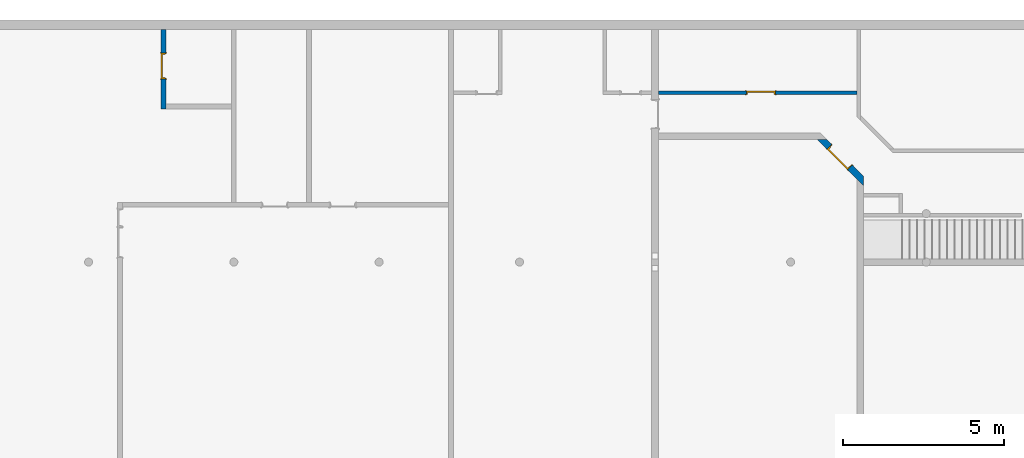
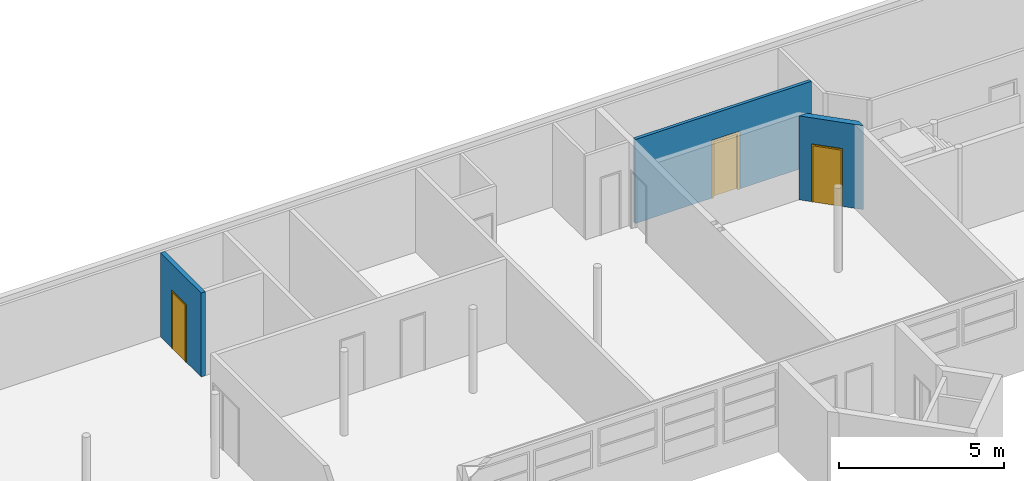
# One storey, part 3 of 25: 3 doors, 3 walls, 3 openings.
"""IFC2X3 building model written with IfcOpenShell, lengths in millimetres."""

from ifc_helpers import new_model, entity, si_unit, converted_unit, derived_unit, money_unit, direction, frame, origin_with_axes, place, context, subcontext, project, spatial, faceted_brep, source, transform, mapped, material, type_object, element, fill, save


model = new_model("IFC2X3")

# Units and contexts
model_context = context("Model", 3, precision=0.01, world=origin_with_axes(), true_north=direction((0.0, 1.0)))
body_context = subcontext(model_context, "Body", "Model", "MODEL_VIEW")
ifc_project = project(units=[si_unit("LENGTHUNIT", "METRE", prefix="MILLI"), si_unit("AREAUNIT", "SQUARE_METRE"), si_unit("VOLUMEUNIT", "CUBIC_METRE"), converted_unit("PLANEANGLEUNIT", "DEGREE", entity("IfcPlaneAngleMeasure", 0.0174532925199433), si_unit("PLANEANGLEUNIT", "RADIAN"), dimensions=[0, 0, 0, 0, 0, 0, 0]), money_unit("USD"), converted_unit("TIMEUNIT", "Year", entity("IfcTimeMeasure", 31557600.0), si_unit("TIMEUNIT", "SECOND"), dimensions=[0, 0, 1, 0, 0, 0, 0]), si_unit("MASSUNIT", "GRAM", prefix="KILO"), si_unit("THERMODYNAMICTEMPERATUREUNIT", "DEGREE_CELSIUS"), si_unit("LUMINOUSINTENSITYUNIT", "LUMEN"), si_unit("ENERGYUNIT", "JOULE", prefix="MEGA"), derived_unit("THERMALCONDUCTANCEUNIT", [(si_unit("POWERUNIT", "WATT"), 1), (si_unit("LENGTHUNIT", "METRE"), -1), (si_unit("THERMODYNAMICTEMPERATUREUNIT", "KELVIN"), -1)]), derived_unit("SPECIFICHEATCAPACITYUNIT", [(si_unit("ENERGYUNIT", "JOULE"), 1), (si_unit("MASSUNIT", "GRAM", prefix="KILO"), -1), (si_unit("THERMODYNAMICTEMPERATUREUNIT", "KELVIN"), -1)]), derived_unit("MASSDENSITYUNIT", [(si_unit("MASSUNIT", "GRAM", prefix="KILO"), 1), (si_unit("VOLUMEUNIT", "CUBIC_METRE"), -1)])], contexts=[model_context])

# Site, building, storey
site_placement = place(None, origin_with_axes())
site = spatial("IfcSite", under=ifc_project, at=site_placement, Name="Site", CompositionType="ELEMENT")
building_placement = place(site_placement, origin_with_axes())
building = spatial("IfcBuilding", under=site, at=building_placement, Name="Building", CompositionType="ELEMENT")
storey_placement = place(building_placement, origin_with_axes())
storey = spatial("IfcBuildingStorey", under=building, at=storey_placement, Name="U ETG", CompositionType="ELEMENT", Elevation=0.0)

# Wall, opening, door
ifc_material = material(Name="GENERIC - INTERNAL FILLER")
wall_type_1 = type_object("IfcWallType", Name="GENERIC - INTERNAL FILLER 110", PredefinedType="NOTDEFINED")
wall_1_placement = place(storey_placement, frame((53550.0, 19800.0, 0.0), z_axis=(0.0, 0.0, 1.0), x_axis=(1.0, 0.0, 0.0)))
wall_1 = element("IfcWall", 1, at=wall_1_placement, inside=storey, type_object=wall_type_1, material=ifc_material, Name="SW - 001", context=body_context, shape_type="Brep", body=[
    faceted_brep([(2823.753634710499, 0.0, 2100.0), (2823.753634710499, 0.0, 0.0), (109.9999999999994, 0.0, 0.0), (109.9999999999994, 0.0, 3100.0), (6260.000000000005, 0.0, 3100.0), (6260.000000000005, 0.0, 0.0), (3723.753634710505, 0.0, 0.0), (3723.753634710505, 0.0, 2100.0), (2823.753634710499, -109.9999999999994, 2100.0), (2823.753634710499, -109.9999999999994, 0.0), (109.9999999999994, -109.9999999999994, 0.0), (109.9999999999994, -109.9999999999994, 3100.0), (6260.000000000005, -109.9999999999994, 3100.0), (6260.000000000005, -109.9999999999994, 0.0), (3723.753634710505, -109.9999999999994, 0.0), (3723.753634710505, -109.9999999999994, 2100.0)], [[[0, 1, 2, 3, 4, 5, 6, 7]], [[1, 0, 8, 9]], [[1, 9, 10, 2]], [[11, 3, 2, 10]], [[4, 3, 11, 12]], [[12, 13, 5, 4]], [[14, 6, 5, 13]], [[7, 6, 14, 15]], [[0, 7, 15, 8]], [[15, 14, 13, 12, 11, 10, 9, 8]]]),
])
opening_1_placement = place(wall_1_placement, frame((3273.753634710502, 0.0, 0.0), z_axis=(0.0, 0.0, 1.0), x_axis=(1.0, 0.0, 0.0)))
opening_1 = element("IfcOpeningElement", 2, at=opening_1_placement, cuts=wall_1, Name="DOO - 002", context=body_context, shape_type="Brep", body=[
    faceted_brep([(-450.0000000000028, 1.000000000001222, 2100.0), (450.0000000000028, 1.000000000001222, 2100.0), (450.0000000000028, 1.000000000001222, 0.0), (-450.0000000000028, 1.000000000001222, 0.0), (-487.0000000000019, 1.000000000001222, 0.0), (-487.0000000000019, 1.000000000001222, 2137.0), (487.0000000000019, 1.000000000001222, 2137.0), (487.0000000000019, 1.000000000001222, 0.0), (-450.0000000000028, 0.0, 0.0), (450.0000000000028, 0.0, 0.0), (450.0000000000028, -109.9999999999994, 0.0), (450.0000000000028, -111.0000000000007, 0.0), (-450.0000000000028, -111.0000000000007, 0.0), (-450.0000000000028, -109.9999999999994, 0.0), (-487.0000000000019, 0.0, 0.0), (-487.0000000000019, 0.0, 2137.0), (487.0000000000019, 0.0, 2137.0), (487.0000000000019, 0.0, 0.0), (450.0000000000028, 0.0, 2100.0), (450.0000000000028, -109.9999999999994, 2100.0), (487.0000000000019, -109.9999999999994, 0.0), (487.0000000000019, -111.0000000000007, 0.0), (487.0000000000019, -111.0000000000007, 2137.0), (-487.0000000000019, -111.0000000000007, 2137.0), (-487.0000000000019, -111.0000000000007, 0.0), (-487.0000000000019, -109.9999999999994, 0.0), (-450.0000000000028, 0.0, 2100.0), (-450.0000000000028, -109.9999999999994, 2100.0), (-487.0000000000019, -109.9999999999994, 2137.0), (487.0000000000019, -109.9999999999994, 2137.0)], [[[0, 1, 2, 3]], [[2, 1, 0, 3, 4, 5, 6, 7]], [[8, 3, 2, 9, 10, 11, 12, 13]], [[3, 8, 14, 4]], [[14, 15, 5, 4]], [[15, 16, 6, 5]], [[16, 17, 7, 6]], [[9, 2, 7, 17]], [[9, 18, 19, 10]], [[11, 10, 20, 21]], [[12, 11, 21, 22, 23, 24]], [[13, 12, 24, 25]], [[26, 8, 13, 27]], [[26, 18, 9, 17, 16, 15, 14, 8]], [[18, 26, 27, 19]], [[10, 19, 27, 13, 25, 28, 29, 20]], [[20, 29, 22, 21]], [[29, 28, 23, 22]], [[28, 25, 24, 23]]]),
])
door_style_1 = type_object("IfcDoorStyle", Name="Dør", ConstructionType="NOTDEFINED", OperationType="SINGLE_SWING_LEFT", ParameterTakesPrecedence=False, Sizeable=False)
shared_shape_1 = source(origin_with_axes(), body_context, "Body", "Brep", [
    faceted_brep([(487.0, -129.0, 0.0), (437.0, -129.0, 0.0), (437.0, -110.0, 0.0), (487.0, -110.0, 0.0), (487.0, -129.0000000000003, 2137.0), (437.0, -129.0000000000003, 2087.0), (437.0, -110.0000000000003, 2087.0), (487.0, -110.0000000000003, 2137.0)], [[[0, 1, 2, 3]], [[0, 4, 5, 1]], [[1, 5, 6, 2]], [[3, 2, 6, 7]], [[4, 0, 3, 7]], [[5, 4, 7, 6]]]),
    faceted_brep([(-487.0, -129.0000000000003, 2137.0), (-437.0, -129.0000000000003, 2087.0), (-437.0, -110.0000000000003, 2087.0), (-487.0, -110.0000000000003, 2137.0), (-487.0, -129.0, 0.0), (-437.0, -129.0, 0.0), (-437.0, -110.0, 0.0), (-487.0, -110.0, 0.0)], [[[0, 1, 2, 3]], [[0, 4, 5, 1]], [[1, 5, 6, 2]], [[3, 2, 6, 7]], [[4, 0, 3, 7]], [[5, 4, 7, 6]]]),
    faceted_brep([(487.0, -129.0000000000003, 2137.0), (437.0, -129.0000000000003, 2087.0), (437.0, -110.0000000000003, 2087.0), (487.0, -110.0000000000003, 2137.0), (-487.0, -129.0000000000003, 2137.0), (-437.0, -129.0000000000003, 2087.0), (-437.0, -110.0000000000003, 2087.0), (-487.0, -110.0000000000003, 2137.0)], [[[0, 1, 2, 3]], [[0, 4, 5, 1]], [[1, 5, 6, 2]], [[3, 2, 6, 7]], [[4, 0, 3, 7]], [[5, 4, 7, 6]]]),
    faceted_brep([(487.0, 19.0, 0.0), (487.0, 0.0, 0.0), (437.0, 0.0, 0.0), (437.0, 19.0, 0.0), (487.0, 18.99999999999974, 2137.0), (487.0, 0.0, 2137.0), (437.0, 0.0, 2087.0), (437.0, 18.99999999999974, 2087.0)], [[[0, 1, 2, 3]], [[4, 5, 1, 0]], [[1, 5, 6, 2]], [[3, 2, 6, 7]], [[0, 3, 7, 4]], [[7, 6, 5, 4]]]),
    faceted_brep([(-487.0, 18.99999999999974, 2137.0), (-487.0, 0.0, 2137.0), (-437.0, 0.0, 2087.0), (-437.0, 18.99999999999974, 2087.0), (-487.0, 19.0, 0.0), (-487.0, 0.0, 0.0), (-437.0, 0.0, 0.0), (-437.0, 19.0, 0.0)], [[[0, 1, 2, 3]], [[4, 5, 1, 0]], [[1, 5, 6, 2]], [[3, 2, 6, 7]], [[0, 3, 7, 4]], [[7, 6, 5, 4]]]),
    faceted_brep([(487.0, 18.99999999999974, 2137.0), (487.0, 0.0, 2137.0), (437.0, 0.0, 2087.0), (437.0, 18.99999999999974, 2087.0), (-487.0, 18.99999999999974, 2137.0), (-487.0, 0.0, 2137.0), (-437.0, 0.0, 2087.0), (-437.0, 18.99999999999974, 2087.0)], [[[0, 1, 2, 3]], [[4, 5, 1, 0]], [[1, 5, 6, 2]], [[3, 2, 6, 7]], [[0, 3, 7, 4]], [[7, 6, 5, 4]]]),
    faceted_brep([(450.0, 0.0, 0.0), (450.0, -115.0, 0.0), (410.0000000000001, -115.0, 0.0), (410.0000000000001, 0.0, 0.0), (450.0, 0.0, 2060.0), (450.0, -115.0, 2060.0), (410.0000000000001, -115.0, 2060.0), (410.0000000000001, 0.0, 2060.0)], [[[0, 1, 2, 3]], [[4, 5, 1, 0]], [[1, 5, 6, 2]], [[3, 2, 6, 7]], [[0, 3, 7, 4]], [[7, 6, 5, 4]]]),
    faceted_brep([(-450.0, 0.0, 0.0), (-450.0, -115.0, 0.0), (-450.0, -115.0, 2060.0), (-450.0, 0.0, 2060.0), (-410.0000000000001, 0.0, 0.0), (-410.0000000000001, -115.0, 0.0), (-410.0000000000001, -115.0, 2060.0), (-410.0000000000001, 0.0, 2060.0)], [[[0, 1, 2, 3]], [[4, 5, 1, 0]], [[1, 5, 6, 2]], [[3, 2, 6, 7]], [[0, 3, 7, 4]], [[7, 6, 5, 4]]]),
    faceted_brep([(450.0, 0.0, 2100.0), (450.0, -115.0, 2100.0), (450.0, -115.0, 2060.0), (450.0, 0.0, 2060.0), (-450.0, 0.0, 2100.0), (-450.0, -115.0, 2100.0), (-450.0, -115.0, 2060.0), (-410.0000000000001, -115.0, 2060.0), (410.0000000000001, -115.0, 2060.0), (410.0000000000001, 0.0, 2060.0), (-410.0000000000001, 0.0, 2060.0), (-450.0, 0.0, 2060.0)], [[[0, 1, 2, 3]], [[4, 5, 1, 0]], [[1, 5, 6, 7, 8, 2]], [[3, 2, 8, 9]], [[0, 3, 9, 10, 11, 4]], [[11, 6, 5, 4]], [[10, 7, 6, 11]], [[9, 8, 7, 10]]]),
    faceted_brep([(-409.9999999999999, 0.0, 0.0), (410.0000000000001, 0.0, 0.0), (410.0000000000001, -40.0, 0.0), (-409.9999999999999, -40.0, 0.0), (-409.9999999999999, 0.0, 2060.0), (410.0000000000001, 0.0, 2060.0), (410.0000000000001, -40.00000000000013, 2060.0), (-409.9999999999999, -40.00000000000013, 2060.0)], [[[0, 1, 2, 3]], [[0, 4, 5, 1]], [[1, 5, 6, 2]], [[3, 2, 6, 7]], [[4, 0, 3, 7]], [[5, 4, 7, 6]]]),
])
door_1_placement = place(opening_1_placement, frame((-450.0000000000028, 0.0, 0.0), z_axis=(0.0, 0.0, 1.0), x_axis=(1.0, 0.0, 0.0)))
door_1 = element("IfcDoor", 3, at=door_1_placement, inside=storey, type_object=door_style_1, Name="DOO - 002", ObjectType="DOOR", OverallHeight=2100.0, OverallWidth=900.0, context=body_context, shape_type="MappedRepresentation", body=[
    mapped(shared_shape_1, transform((450.0000000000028, 0.0, 0.0))),
])
fill(opening_1, door_1)

wall_type_2 = type_object("IfcWallType", Name="GENERIC - INTERNAL FILLER 150", PredefinedType="NOTDEFINED")
wall_2_placement = place(storey_placement, frame((38400.00000000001, 21700.0, 0.0), z_axis=(0.0, 0.0, 1.0), x_axis=(0.0, -1.0, 0.0)))
wall_2 = element("IfcWall", 4, at=wall_2_placement, inside=storey, type_object=wall_type_2, material=ifc_material, Name="SW - 001", context=body_context, shape_type="Brep", body=[
    faceted_brep([(1523.288237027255, 0.0, 0.0), (1523.288237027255, 0.0, 2100.0), (723.2882370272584, 0.0, 2100.0), (723.2882370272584, 0.0, 0.0), (0.0, 0.0, 0.0), (0.0, 0.0, 3100.0), (2449.999999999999, 0.0, 3100.0), (2449.999999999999, 0.0, 0.0), (1523.288237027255, -149.9999999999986, 0.0), (1523.288237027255, -149.9999999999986, 2100.0), (723.2882370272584, -149.9999999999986, 2100.0), (723.2882370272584, -149.9999999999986, 0.0), (0.0, -149.9999999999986, 0.0), (0.0, -149.9999999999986, 3100.0), (2449.999999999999, -149.9999999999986, 3100.0), (2449.999999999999, -149.9999999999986, 0.0)], [[[0, 1, 2, 3, 4, 5, 6, 7]], [[1, 0, 8, 9]], [[2, 1, 9, 10]], [[3, 2, 10, 11]], [[3, 11, 12, 4]], [[4, 12, 13, 5]], [[6, 5, 13, 14]], [[7, 6, 14, 15]], [[8, 0, 7, 15]], [[9, 8, 15, 14, 13, 12, 11, 10]]]),
])
opening_2_placement = place(wall_2_placement, frame((1123.288237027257, 0.0, 0.0), z_axis=(0.0, 0.0, 1.0), x_axis=(1.0, 0.0, 0.0)))
opening_2 = element("IfcOpeningElement", 5, at=opening_2_placement, cuts=wall_2, Name="DOO - 002", context=body_context, shape_type="Brep", body=[
    faceted_brep([(-399.9999999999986, -149.9999999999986, 0.0), (-399.9999999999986, -149.9999999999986, 2100.0), (-399.9999999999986, 0.0, 2100.0), (-399.9999999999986, 0.0, 0.0), (399.9999999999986, -149.9999999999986, 2100.0), (-437.0000000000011, -149.9999999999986, 0.0), (-437.0000000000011, -149.9999999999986, 2137.0), (437.0000000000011, -149.9999999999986, 2137.0), (437.0000000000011, -149.9999999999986, 0.0), (399.9999999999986, -149.9999999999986, 0.0), (399.9999999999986, 0.0, 2100.0), (399.9999999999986, 0.0, 0.0), (437.0000000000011, 0.0, 0.0), (437.0000000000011, 0.0, 2137.0), (-437.0000000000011, 0.0, 2137.0), (-437.0000000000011, 0.0, 0.0), (-399.9999999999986, -150.9999999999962, 0.0), (-399.9999999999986, 0.9999999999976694, 0.0), (399.9999999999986, 0.9999999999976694, 0.0), (399.9999999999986, -150.9999999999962, 0.0), (-437.0000000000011, -150.9999999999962, 0.0), (-437.0000000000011, -150.9999999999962, 2137.0), (437.0000000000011, -150.9999999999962, 2137.0), (437.0000000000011, -150.9999999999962, 0.0), (437.0000000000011, 0.9999999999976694, 0.0), (437.0000000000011, 0.9999999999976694, 2137.0), (-437.0000000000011, 0.9999999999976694, 2137.0), (-437.0000000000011, 0.9999999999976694, 0.0), (-399.9999999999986, -150.9999999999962, 2100.0), (399.9999999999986, -150.9999999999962, 2100.0)], [[[0, 1, 2, 3]], [[4, 1, 0, 5, 6, 7, 8, 9]], [[1, 4, 10, 2]], [[3, 2, 10, 11, 12, 13, 14, 15]], [[16, 0, 3, 17, 18, 11, 9, 19]], [[0, 16, 20, 5]], [[6, 5, 20, 21]], [[7, 6, 21, 22]], [[8, 7, 22, 23]], [[19, 9, 8, 23]], [[4, 9, 11, 10]], [[11, 18, 24, 12]], [[13, 12, 24, 25]], [[14, 13, 25, 26]], [[15, 14, 26, 27]], [[17, 3, 15, 27]], [[17, 27, 26, 25, 24, 18]], [[28, 16, 19, 29]], [[16, 28, 29, 19, 23, 22, 21, 20]]]),
])
door_style_2 = type_object("IfcDoorStyle", Name="Dør", ConstructionType="NOTDEFINED", OperationType="SINGLE_SWING_RIGHT", ParameterTakesPrecedence=False, Sizeable=False)
shared_shape_2 = source(origin_with_axes(), body_context, "Body", "Brep", [
    faceted_brep([(-400.0, -115.0, 0.0), (-375.0, -115.0, 0.0), (-375.0, -150.0, 0.0), (-400.0, -150.0, 0.0), (-400.0, -115.0000000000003, 2100.0), (-375.0, -115.0000000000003, 2075.0), (-375.0, -150.0000000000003, 2075.0), (-400.0, -150.0000000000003, 2100.0)], [[[0, 1, 2, 3]], [[0, 4, 5, 1]], [[1, 5, 6, 2]], [[3, 2, 6, 7]], [[4, 0, 3, 7]], [[5, 4, 7, 6]]]),
    faceted_brep([(400.0, -115.0000000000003, 2100.0), (375.0, -115.0000000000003, 2075.0), (375.0, -150.0000000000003, 2075.0), (400.0, -150.0000000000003, 2100.0), (400.0, -115.0, 0.0), (375.0, -115.0, 0.0), (375.0, -150.0, 0.0), (400.0, -150.0, 0.0)], [[[0, 1, 2, 3]], [[0, 4, 5, 1]], [[1, 5, 6, 2]], [[3, 2, 6, 7]], [[4, 0, 3, 7]], [[5, 4, 7, 6]]]),
    faceted_brep([(-375.0, -115.0000000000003, 2075.0), (375.0, -115.0000000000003, 2075.0), (375.0, -150.0000000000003, 2075.0), (-375.0, -150.0000000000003, 2075.0), (-400.0, -115.0000000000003, 2100.0), (400.0, -115.0000000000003, 2100.0), (400.0, -150.0000000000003, 2100.0), (-400.0, -150.0000000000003, 2100.0)], [[[0, 1, 2, 3]], [[0, 4, 5, 1]], [[1, 5, 6, 2]], [[3, 2, 6, 7]], [[4, 0, 3, 7]], [[5, 4, 7, 6]]]),
    faceted_brep([(-437.0, -169.0, 0.0), (-437.0, -150.0, 0.0), (-387.0, -150.0, 0.0), (-387.0, -169.0, 0.0), (-437.0, -169.0000000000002, 2137.0), (-437.0, -150.0000000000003, 2137.0), (-387.0, -150.0000000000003, 2087.0), (-387.0, -169.0000000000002, 2087.0)], [[[0, 1, 2, 3]], [[4, 5, 1, 0]], [[1, 5, 6, 2]], [[3, 2, 6, 7]], [[0, 3, 7, 4]], [[7, 6, 5, 4]]]),
    faceted_brep([(437.0, -169.0000000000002, 2137.0), (437.0, -150.0000000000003, 2137.0), (387.0, -150.0000000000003, 2087.0), (387.0, -169.0000000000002, 2087.0), (437.0, -169.0, 0.0), (437.0, -150.0, 0.0), (387.0, -150.0, 0.0), (387.0, -169.0, 0.0)], [[[0, 1, 2, 3]], [[4, 5, 1, 0]], [[1, 5, 6, 2]], [[3, 2, 6, 7]], [[0, 3, 7, 4]], [[7, 6, 5, 4]]]),
    faceted_brep([(-437.0, -169.0000000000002, 2137.0), (-437.0, -150.0000000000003, 2137.0), (-387.0, -150.0000000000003, 2087.0), (-387.0, -169.0000000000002, 2087.0), (437.0, -169.0000000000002, 2137.0), (437.0, -150.0000000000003, 2137.0), (387.0, -150.0000000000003, 2087.0), (387.0, -169.0000000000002, 2087.0)], [[[0, 1, 2, 3]], [[4, 5, 1, 0]], [[1, 5, 6, 2]], [[3, 2, 6, 7]], [[0, 3, 7, 4]], [[7, 6, 5, 4]]]),
    faceted_brep([(-437.0, 19.0, 0.0), (-387.0, 19.0, 0.0), (-387.0, 0.0, 0.0), (-437.0, 0.0, 0.0), (-437.0, 18.99999999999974, 2137.0), (-387.0, 18.99999999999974, 2087.0), (-387.0, 0.0, 2087.0), (-437.0, 0.0, 2137.0)], [[[0, 1, 2, 3]], [[0, 4, 5, 1]], [[1, 5, 6, 2]], [[3, 2, 6, 7]], [[4, 0, 3, 7]], [[5, 4, 7, 6]]]),
    faceted_brep([(437.0, 18.99999999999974, 2137.0), (387.0, 18.99999999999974, 2087.0), (387.0, 0.0, 2087.0), (437.0, 0.0, 2137.0), (437.0, 19.0, 0.0), (387.0, 19.0, 0.0), (387.0, 0.0, 0.0), (437.0, 0.0, 0.0)], [[[0, 1, 2, 3]], [[0, 4, 5, 1]], [[1, 5, 6, 2]], [[3, 2, 6, 7]], [[4, 0, 3, 7]], [[5, 4, 7, 6]]]),
    faceted_brep([(-437.0000000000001, 18.99999999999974, 2137.0), (-387.0, 18.99999999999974, 2087.0), (-387.0, 0.0, 2087.0), (-437.0000000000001, 0.0, 2137.0), (437.0000000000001, 18.99999999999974, 2137.0), (387.0, 18.99999999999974, 2087.0), (387.0, 0.0, 2087.0), (437.0000000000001, 0.0, 2137.0)], [[[0, 1, 2, 3]], [[0, 4, 5, 1]], [[1, 5, 6, 2]], [[3, 2, 6, 7]], [[4, 0, 3, 7]], [[5, 4, 7, 6]]]),
    faceted_brep([(-400.0, 0.0, 0.0), (-360.0000000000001, 0.0, 0.0), (-360.0000000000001, -115.0, 0.0), (-400.0, -115.0, 0.0), (-400.0, 0.0, 2060.0), (-360.0000000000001, 0.0, 2060.0), (-360.0000000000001, -115.0, 2060.0), (-400.0, -115.0, 2060.0)], [[[0, 1, 2, 3]], [[0, 4, 5, 1]], [[1, 5, 6, 2]], [[3, 2, 6, 7]], [[4, 0, 3, 7]], [[5, 4, 7, 6]]]),
    faceted_brep([(400.0, 0.0, 0.0), (400.0, 0.0, 2060.0), (400.0, -115.0, 2060.0), (400.0, -115.0, 0.0), (360.0000000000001, 0.0, 0.0), (360.0000000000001, 0.0, 2060.0), (360.0000000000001, -115.0, 2060.0), (360.0000000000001, -115.0, 0.0)], [[[0, 1, 2, 3]], [[0, 4, 5, 1]], [[1, 5, 6, 2]], [[3, 2, 6, 7]], [[4, 0, 3, 7]], [[5, 4, 7, 6]]]),
    faceted_brep([(-400.0, 0.0, 2100.0), (-400.0, 0.0, 2060.0), (-400.0, -115.0, 2060.0), (-400.0, -115.0, 2100.0), (400.0, 0.0, 2100.0), (400.0, 0.0, 2060.0), (360.0000000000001, 0.0, 2060.0), (-360.0000000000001, 0.0, 2060.0), (-360.0000000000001, -115.0, 2060.0), (360.0000000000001, -115.0, 2060.0), (400.0, -115.0, 2060.0), (400.0, -115.0, 2100.0)], [[[0, 1, 2, 3]], [[0, 4, 5, 6, 7, 1]], [[1, 7, 8, 2]], [[3, 2, 8, 9, 10, 11]], [[4, 0, 3, 11]], [[5, 4, 11, 10]], [[6, 5, 10, 9]], [[7, 6, 9, 8]]]),
    faceted_brep([(359.9999999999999, 0.0, 0.0), (359.9999999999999, -40.0, 0.0), (-360.0000000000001, -40.0, 0.0), (-360.0000000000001, 0.0, 0.0), (359.9999999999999, 0.0, 2060.0), (359.9999999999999, -40.00000000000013, 2060.0), (-360.0000000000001, -40.00000000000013, 2060.0), (-360.0000000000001, 0.0, 2060.0)], [[[0, 1, 2, 3]], [[4, 5, 1, 0]], [[1, 5, 6, 2]], [[3, 2, 6, 7]], [[0, 3, 7, 4]], [[7, 6, 5, 4]]]),
])
door_2_placement = place(opening_2_placement, frame((399.9999999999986, 0.0, 0.0), z_axis=(0.0, 0.0, 1.0), x_axis=(-1.0, 0.0, 0.0)))
door_2 = element("IfcDoor", 6, at=door_2_placement, inside=storey, type_object=door_style_2, Name="DOO - 002", ObjectType="DOOR", OverallHeight=2100.0, OverallWidth=800.0, context=body_context, shape_type="MappedRepresentation", body=[
    mapped(shared_shape_2, transform((399.9999999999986, 149.9999999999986, 0.0))),
])
fill(opening_2, door_2)

wall_type_3 = type_object("IfcWallType", Name="GENERIC - INTERNAL FILLER 200", PredefinedType="NOTDEFINED")
wall_3_placement = place(storey_placement, frame((58660.0, 18500.0, 0.0), z_axis=(0.0, 0.0, 1.0), x_axis=(0.7071067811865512, -0.7071067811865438, 0.0)))
wall_3 = element("IfcWall", 7, at=wall_3_placement, inside=storey, type_object=wall_type_3, material=ifc_material, Name="SW - 001", context=body_context, shape_type="Brep", body=[
    faceted_brep([(508.8088382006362, 0.0, 2100.0), (508.8088382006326, 0.0, 0.0), (282.8427124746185, 0.0, 0.0), (282.8427124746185, 0.0, 3100.0), (1900.000000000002, 0.0, 3100.0), (1900.000000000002, 0.0, 0.0), (1408.808838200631, 0.0, 0.0), (1408.808838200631, 0.0, 2100.0), (508.8088382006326, -199.9999999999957, 2100.0), (508.8088382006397, -199.9999999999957, 0.0), (82.84271247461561, -199.9999999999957, 0.0), (82.84271247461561, -199.9999999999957, 3100.0), (2099.999999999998, -199.9999999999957, 3100.0), (2099.999999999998, -199.9999999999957, 0.0), (1408.808838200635, -199.9999999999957, 0.0), (1408.808838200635, -199.9999999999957, 2100.0)], [[[0, 1, 2, 3, 4, 5, 6, 7]], [[1, 0, 8, 9]], [[1, 9, 10, 2]], [[11, 3, 2, 10]], [[4, 3, 11, 12]], [[12, 13, 5, 4]], [[14, 6, 5, 13]], [[7, 6, 14, 15]], [[0, 7, 15, 8]], [[15, 14, 13, 12, 11, 10, 9, 8]]]),
])
opening_3_placement = place(wall_3_placement, frame((958.8088382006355, 0.0, 0.0), z_axis=(0.0, 0.0, 1.0), x_axis=(1.0, 0.0, 0.0)))
opening_3 = element("IfcOpeningElement", 8, at=opening_3_placement, cuts=wall_3, Name="DOO - 002", context=body_context, shape_type="Brep", body=[
    faceted_brep([(-450.0000000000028, -199.9999999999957, 2100.0), (449.9999999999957, -200.0000000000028, 2100.0), (449.9999999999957, 0.0, 2100.0), (-450.0000000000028, 0.0, 2100.0), (449.9999999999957, -200.0000000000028, 0.0), (-450.0000000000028, -199.9999999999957, 0.0), (-486.9999999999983, -200.0000000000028, 0.0), (-486.9999999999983, -200.0000000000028, 2137.0), (486.9999999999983, -199.9999999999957, 2137.0), (486.9999999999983, -199.9999999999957, 0.0), (449.9999999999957, 0.0, 0.0), (487.0000000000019, 0.0, 0.0), (487.0000000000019, 0.0, 2137.0), (-487.0000000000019, 0.0, 2137.0), (-487.0000000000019, 0.0, 0.0), (-449.9999999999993, 0.0, 0.0), (-450.0000000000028, -1150.999999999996, 0.0), (-487.0000000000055, -1151.000000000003, 0.0), (-487.0000000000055, -1151.000000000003, 2137.0), (486.9999999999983, -1150.999999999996, 2137.0), (486.9999999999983, -1150.999999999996, 0.0), (449.9999999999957, -1151.000000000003, 0.0), (-450.0000000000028, 951.0000000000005, 0.0), (449.9999999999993, 951.0000000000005, 0.0), (486.9999999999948, 951.0000000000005, 0.0), (486.9999999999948, 951.0000000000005, 2137.0), (-487.0000000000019, 951.0000000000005, 2137.0), (-487.0000000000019, 951.0000000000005, 0.0), (-450.0000000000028, -1150.999999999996, 2100.0), (449.9999999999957, -1151.000000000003, 2100.0)], [[[0, 1, 2, 3]], [[4, 1, 0, 5, 6, 7, 8, 9]], [[1, 4, 10, 2]], [[3, 2, 10, 11, 12, 13, 14, 15]], [[5, 0, 3, 15]], [[5, 16, 17, 6]], [[7, 6, 17, 18]], [[8, 7, 18, 19]], [[9, 8, 19, 20]], [[21, 4, 9, 20]], [[16, 5, 15, 22, 23, 10, 4, 21]], [[10, 23, 24, 11]], [[12, 11, 24, 25]], [[13, 12, 25, 26]], [[14, 13, 26, 27]], [[22, 15, 14, 27]], [[28, 29, 21, 20, 19, 18, 17, 16]], [[23, 22, 27, 26, 25, 24]], [[28, 16, 21, 29]]]),
])
door_style_3 = type_object("IfcDoorStyle", Name="Dør", ConstructionType="NOTDEFINED", OperationType="SINGLE_SWING_RIGHT", ParameterTakesPrecedence=False, Sizeable=False)
shared_shape_3 = source(origin_with_axes(), body_context, "Body", "Brep", [
    faceted_brep([(-450.0, -115.0, 0.0), (-425.0, -115.0, 0.0), (-425.0, -200.0, 0.0), (-450.0, -200.0, 0.0), (-450.0, -115.0000000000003, 2100.0), (-425.0, -115.0000000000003, 2075.0), (-425.0, -200.0000000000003, 2075.0), (-450.0, -200.0000000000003, 2100.0)], [[[0, 1, 2, 3]], [[0, 4, 5, 1]], [[1, 5, 6, 2]], [[3, 2, 6, 7]], [[4, 0, 3, 7]], [[5, 4, 7, 6]]]),
    faceted_brep([(450.0, -115.0000000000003, 2100.0), (425.0, -115.0000000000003, 2075.0), (425.0, -200.0000000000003, 2075.0), (450.0, -200.0000000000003, 2100.0), (450.0, -115.0, 0.0), (425.0, -115.0, 0.0), (425.0, -200.0, 0.0), (450.0, -200.0, 0.0)], [[[0, 1, 2, 3]], [[0, 4, 5, 1]], [[1, 5, 6, 2]], [[3, 2, 6, 7]], [[4, 0, 3, 7]], [[5, 4, 7, 6]]]),
    faceted_brep([(-425.0, -115.0000000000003, 2075.0), (425.0, -115.0000000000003, 2075.0), (425.0, -200.0000000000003, 2075.0), (-425.0, -200.0000000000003, 2075.0), (-450.0, -115.0000000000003, 2100.0), (450.0, -115.0000000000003, 2100.0), (450.0, -200.0000000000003, 2100.0), (-450.0, -200.0000000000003, 2100.0)], [[[0, 1, 2, 3]], [[0, 4, 5, 1]], [[1, 5, 6, 2]], [[3, 2, 6, 7]], [[4, 0, 3, 7]], [[5, 4, 7, 6]]]),
    faceted_brep([(-487.0, -219.0, 0.0), (-487.0, -200.0, 0.0), (-437.0, -200.0, 0.0), (-437.0, -219.0, 0.0), (-487.0, -219.0000000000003, 2137.0), (-487.0, -200.0000000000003, 2137.0), (-437.0, -200.0000000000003, 2087.0), (-437.0, -219.0000000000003, 2087.0)], [[[0, 1, 2, 3]], [[4, 5, 1, 0]], [[1, 5, 6, 2]], [[3, 2, 6, 7]], [[0, 3, 7, 4]], [[7, 6, 5, 4]]]),
    faceted_brep([(487.0, -219.0000000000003, 2137.0), (487.0, -200.0000000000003, 2137.0), (437.0, -200.0000000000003, 2087.0), (437.0, -219.0000000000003, 2087.0), (487.0, -219.0, 0.0), (487.0, -200.0, 0.0), (437.0, -200.0, 0.0), (437.0, -219.0, 0.0)], [[[0, 1, 2, 3]], [[4, 5, 1, 0]], [[1, 5, 6, 2]], [[3, 2, 6, 7]], [[0, 3, 7, 4]], [[7, 6, 5, 4]]]),
    faceted_brep([(-487.0, -219.0000000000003, 2137.0), (-487.0, -200.0000000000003, 2137.0), (-437.0, -200.0000000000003, 2087.0), (-437.0, -219.0000000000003, 2087.0), (487.0, -219.0000000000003, 2137.0), (487.0, -200.0000000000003, 2137.0), (437.0, -200.0000000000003, 2087.0), (437.0, -219.0000000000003, 2087.0)], [[[0, 1, 2, 3]], [[4, 5, 1, 0]], [[1, 5, 6, 2]], [[3, 2, 6, 7]], [[0, 3, 7, 4]], [[7, 6, 5, 4]]]),
    faceted_brep([(-487.0, 19.0, 0.0), (-437.0, 19.0, 0.0), (-437.0, 0.0, 0.0), (-487.0, 0.0, 0.0), (-487.0, 18.99999999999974, 2137.0), (-437.0, 18.99999999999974, 2087.0), (-437.0, 0.0, 2087.0), (-487.0, 0.0, 2137.0)], [[[0, 1, 2, 3]], [[0, 4, 5, 1]], [[1, 5, 6, 2]], [[3, 2, 6, 7]], [[4, 0, 3, 7]], [[5, 4, 7, 6]]]),
    faceted_brep([(487.0, 18.99999999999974, 2137.0), (437.0, 18.99999999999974, 2087.0), (437.0, 0.0, 2087.0), (487.0, 0.0, 2137.0), (487.0, 19.0, 0.0), (437.0, 19.0, 0.0), (437.0, 0.0, 0.0), (487.0, 0.0, 0.0)], [[[0, 1, 2, 3]], [[0, 4, 5, 1]], [[1, 5, 6, 2]], [[3, 2, 6, 7]], [[4, 0, 3, 7]], [[5, 4, 7, 6]]]),
    faceted_brep([(-487.0, 18.99999999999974, 2137.0), (-437.0, 18.99999999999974, 2087.0), (-437.0, 0.0, 2087.0), (-487.0, 0.0, 2137.0), (487.0, 18.99999999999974, 2137.0), (437.0, 18.99999999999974, 2087.0), (437.0, 0.0, 2087.0), (487.0, 0.0, 2137.0)], [[[0, 1, 2, 3]], [[0, 4, 5, 1]], [[1, 5, 6, 2]], [[3, 2, 6, 7]], [[4, 0, 3, 7]], [[5, 4, 7, 6]]]),
    faceted_brep([(-450.0, 0.0, 0.0), (-410.0000000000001, 0.0, 0.0), (-410.0000000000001, -115.0, 0.0), (-450.0, -115.0, 0.0), (-450.0, 0.0, 2060.0), (-410.0000000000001, 0.0, 2060.0), (-410.0000000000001, -115.0, 2060.0), (-450.0, -115.0, 2060.0)], [[[0, 1, 2, 3]], [[0, 4, 5, 1]], [[1, 5, 6, 2]], [[3, 2, 6, 7]], [[4, 0, 3, 7]], [[5, 4, 7, 6]]]),
    faceted_brep([(450.0, 0.0, 0.0), (450.0, 0.0, 2060.0), (450.0, -115.0, 2060.0), (450.0, -115.0, 0.0), (410.0000000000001, 0.0, 0.0), (410.0000000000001, 0.0, 2060.0), (410.0000000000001, -115.0, 2060.0), (410.0000000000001, -115.0, 0.0)], [[[0, 1, 2, 3]], [[0, 4, 5, 1]], [[1, 5, 6, 2]], [[3, 2, 6, 7]], [[4, 0, 3, 7]], [[5, 4, 7, 6]]]),
    faceted_brep([(-450.0, 0.0, 2100.0), (-450.0, 0.0, 2060.0), (-450.0, -115.0, 2060.0), (-450.0, -115.0, 2100.0), (450.0, 0.0, 2100.0), (450.0, 0.0, 2060.0), (410.0000000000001, 0.0, 2060.0), (-410.0000000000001, 0.0, 2060.0), (-410.0000000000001, -115.0, 2060.0), (410.0000000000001, -115.0, 2060.0), (450.0, -115.0, 2060.0), (450.0, -115.0, 2100.0)], [[[0, 1, 2, 3]], [[0, 4, 5, 6, 7, 1]], [[1, 7, 8, 2]], [[3, 2, 8, 9, 10, 11]], [[4, 0, 3, 11]], [[5, 4, 11, 10]], [[6, 5, 10, 9]], [[7, 6, 9, 8]]]),
    faceted_brep([(409.9999999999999, 0.0, 0.0), (409.9999999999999, -40.0, 0.0), (-410.0000000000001, -40.0, 0.0), (-410.0000000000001, 0.0, 0.0), (409.9999999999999, 0.0, 2060.0), (409.9999999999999, -40.00000000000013, 2060.0), (-410.0000000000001, -40.00000000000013, 2060.0), (-410.0000000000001, 0.0, 2060.0)], [[[0, 1, 2, 3]], [[4, 5, 1, 0]], [[1, 5, 6, 2]], [[3, 2, 6, 7]], [[0, 3, 7, 4]], [[7, 6, 5, 4]]]),
])
door_3_placement = place(opening_3_placement, frame((449.9999999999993, 0.0, 0.0), z_axis=(0.0, 0.0, 1.0), x_axis=(-1.0, 0.0, 0.0)))
door_3 = element("IfcDoor", 9, at=door_3_placement, inside=storey, type_object=door_style_3, Name="DOO - 002", ObjectType="DOOR", OverallHeight=2100.0, OverallWidth=900.0, context=body_context, shape_type="MappedRepresentation", body=[
    mapped(shared_shape_3, transform((449.9999999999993, 200.0000000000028, 0.0))),
])
fill(opening_3, door_3)

save(model, "model.ifc")
